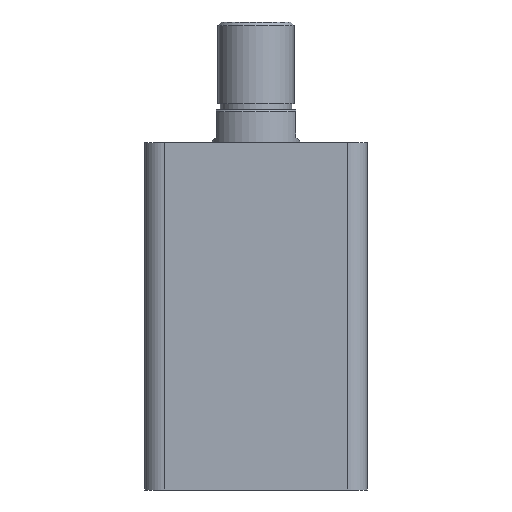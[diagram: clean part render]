
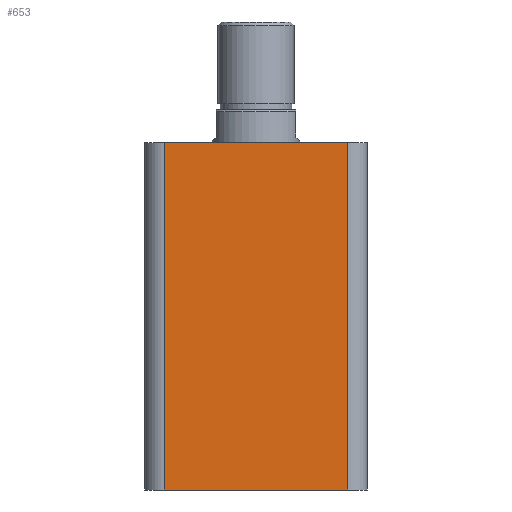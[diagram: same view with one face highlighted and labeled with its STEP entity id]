
A CAD part, front view. The second image highlights one B-rep face of the part: STEP entity #653.
In plain terms, the highlighted planar face has unit normal (0, -1, 0).
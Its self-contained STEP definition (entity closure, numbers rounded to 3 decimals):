
#67 = DIRECTION ( 'NONE',  ( 0., 0., 1. ) ) ;
#70 = DIRECTION ( 'NONE',  ( 0., 1., 0. ) ) ;
#71 = PLANE ( 'NONE',  #1149 ) ;
#79 = CARTESIAN_POINT ( 'NONE',  ( -57., -57., 178. ) ) ;
#279 = CARTESIAN_POINT ( 'NONE',  ( -47., -57., 178. ) ) ;
#280 = CARTESIAN_POINT ( 'NONE',  ( 47., -57., 178. ) ) ;
#281 = CARTESIAN_POINT ( 'NONE',  ( 47., -57., 0. ) ) ;
#300 = CARTESIAN_POINT ( 'NONE',  ( -47., -57., 0. ) ) ;
#653 = ADVANCED_FACE ( 'NONE', ( #1311 ), #71, .F. ) ;
#750 = ORIENTED_EDGE ( 'NONE', *, *, #1094, .T. ) ;
#751 = ORIENTED_EDGE ( 'NONE', *, *, #1095, .F. ) ;
#752 = ORIENTED_EDGE ( 'NONE', *, *, #1096, .T. ) ;
#753 = ORIENTED_EDGE ( 'NONE', *, *, #1097, .T. ) ;
#1094 = EDGE_CURVE ( 'NONE', #2393, #2415, #1528, .T. ) ;
#1095 = EDGE_CURVE ( 'NONE', #2393, #2392, #1534, .T. ) ;
#1096 = EDGE_CURVE ( 'NONE', #2394, #2392, #1535, .T. ) ;
#1097 = EDGE_CURVE ( 'NONE', #2415, #2394, #1539, .T. ) ;
#1149 = AXIS2_PLACEMENT_3D ( 'NONE', #79, #70, #67 ) ;
#1297 = EDGE_LOOP ( 'NONE', ( #753, #752, #751, #750 ) ) ;
#1311 = FACE_OUTER_BOUND ( 'NONE', #1297, .T. ) ;
#1528 = LINE ( 'NONE', #2086, #1536 ) ;
#1534 = LINE ( 'NONE', #2085, #1538 ) ;
#1535 = LINE ( 'NONE', #2077, #1540 ) ;
#1536 = VECTOR ( 'NONE', #2081, 1000. ) ;
#1538 = VECTOR ( 'NONE', #2091, 1000. ) ;
#1539 = LINE ( 'NONE', #2093, #1542 ) ;
#1540 = VECTOR ( 'NONE', #2092, 1000. ) ;
#1542 = VECTOR ( 'NONE', #2094, 1000. ) ;
#2077 = CARTESIAN_POINT ( 'NONE',  ( 47., -57., 178. ) ) ;
#2081 = DIRECTION ( 'NONE',  ( 0., 0., -1. ) ) ;
#2085 = CARTESIAN_POINT ( 'NONE',  ( -57., -57., 178. ) ) ;
#2086 = CARTESIAN_POINT ( 'NONE',  ( -47., -57., 178. ) ) ;
#2091 = DIRECTION ( 'NONE',  ( 1., 0., 0. ) ) ;
#2092 = DIRECTION ( 'NONE',  ( 0., 0., 1. ) ) ;
#2093 = CARTESIAN_POINT ( 'NONE',  ( -57., -57., 0. ) ) ;
#2094 = DIRECTION ( 'NONE',  ( 1., 0., 0. ) ) ;
#2392 = VERTEX_POINT ( 'NONE', #280 ) ;
#2393 = VERTEX_POINT ( 'NONE', #279 ) ;
#2394 = VERTEX_POINT ( 'NONE', #281 ) ;
#2415 = VERTEX_POINT ( 'NONE', #300 ) ;
